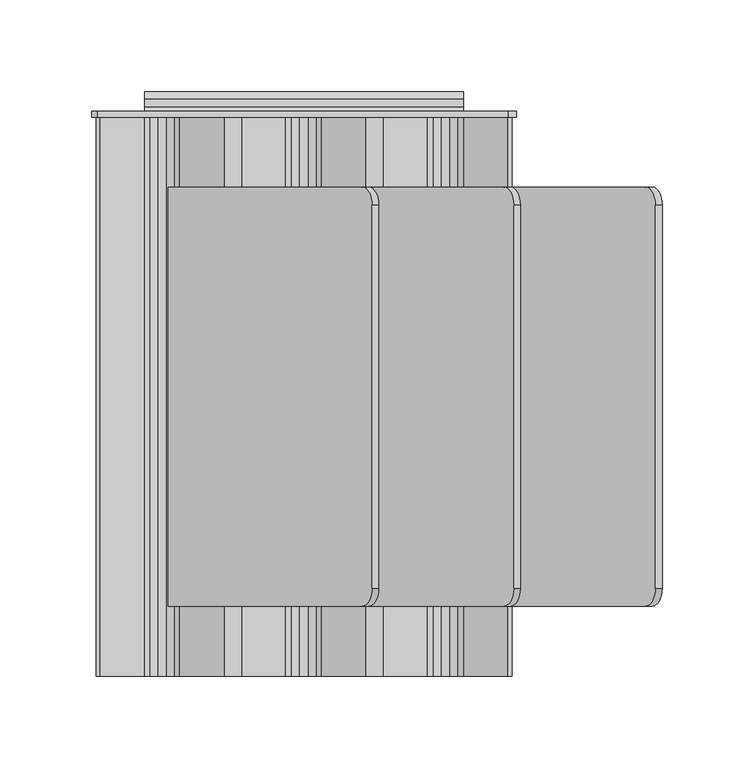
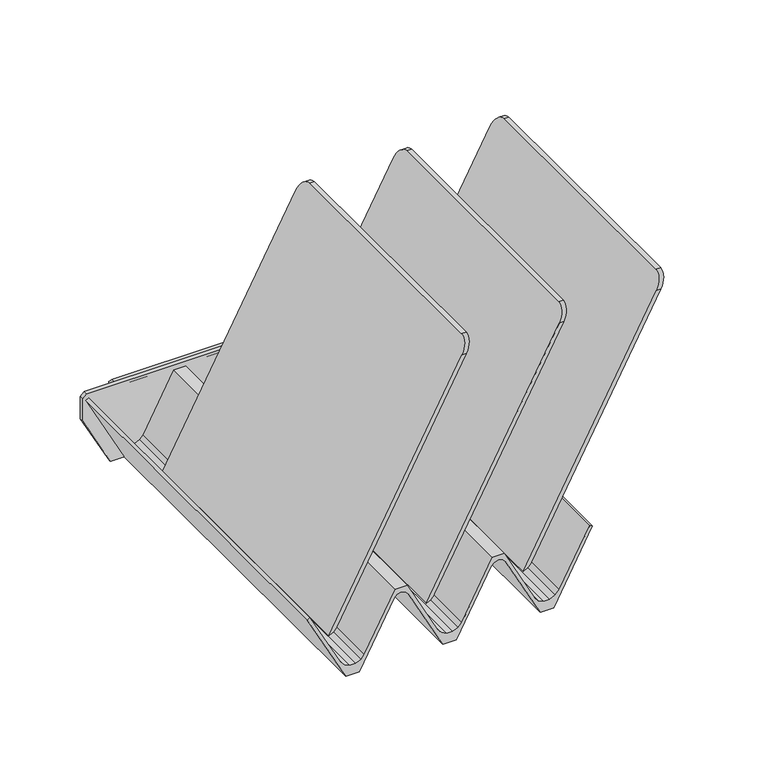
"""IFC4 building model written with IfcOpenShell, lengths in millimetres: furniture geometry."""

from ifc_helpers import new_model, si_unit, point, frame, frame_2d, origin, place, context, project, spatial, polyline, circle_curve, ellipse_curve, trimmed, segment, composite_curve, outline, extrude, source, transform, mapped, element, save
from ifc_brep_helpers import plane_surface, cylinder_surface, advanced_brep


def furniture_3d3026bf(model_context):
    return source(origin(), model_context, "Body", "SolidModel", [
        advanced_brep(
        [(-78.5076305, -115.8875182, 803.275), (-74.9117341, -115.8875182, 803.275), (35.3237269, -115.8875182, 1010.5977434), (31.7278836, -115.8875182, 1010.5977434), (-74.9117341, 112.7124864, 803.275), (-78.5076305, 112.7124864, 803.275), (31.7278836, 112.7124864, 1010.5977434), (35.3237269, 112.7124864, 1010.5977434), (40.728424, 102.8883555, 1020.7625), (40.728424, -105.9830355, 1020.7625), (37.1325833, 102.8883555, 1020.7625), (37.1325833, -105.9830355, 1020.7625)],
        [
            (0, 1),
            (1, 2),
            (2, 3),
            (3, 0),
            (4, 5),
            (5, 6),
            (6, 7),
            (7, 4),
            (0, 5),
            (4, 1),
            (7, 8, ellipse_curve(frame((35.3237269, 102.5418246, 1010.5977434), z_axis=(0.8829475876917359, 0.0, -0.46947157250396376), x_axis=(-0.46947157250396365, 0.0, -0.882947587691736)), 11.518987, 10.1706618)),
            (8, 9),
            (9, 2, ellipse_curve(frame((35.3237269, -105.7193418, 1010.5977434), z_axis=(0.8829475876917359, 0.0, -0.46947157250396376), x_axis=(-0.46947157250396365, 0.0, -0.882947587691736)), 11.5161721, 10.1681764)),
            (8, 10),
            (10, 11),
            (11, 9),
            (3, 11, ellipse_curve(frame((31.7278836, -105.7193418, 1010.5977434), z_axis=(-0.8829474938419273, 0.0, 0.46947174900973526), x_axis=(-0.4694717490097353, 0.0, -0.8829474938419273)), 11.5161734, 10.1681764)),
            (10, 6, ellipse_curve(frame((31.7278836, 102.5418246, 1010.5977434), z_axis=(-0.8829474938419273, 0.0, 0.46947174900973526), x_axis=(-0.4694717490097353, 0.0, -0.8829474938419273)), 11.5189882, 10.1706618)),
        ],
        [
            plane_surface(frame((-78.5076305, -115.8875182, 803.275), z_axis=(0.0, -1.0, 0.0), x_axis=(1.0, 0.0, 0.0))),
            plane_surface(frame((-78.5076305, 112.7124864, 803.275), z_axis=(0.0, 1.0, 0.0), x_axis=(-1.0, 0.0, 0.0))),
            plane_surface(frame((-78.5076305, -115.8875182, 803.275), z_axis=(0.0, 0.0, -1.0), x_axis=(0.0, 1.0, 0.0))),
            plane_surface(frame((-74.9117341, -115.8875182, 803.275), z_axis=(0.8829475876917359, 0.0, -0.46947157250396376), x_axis=(0.0, 1.0, 0.0))),
            plane_surface(frame((40.728424, -115.8875182, 1020.7625), z_axis=(0.0, 0.0, 1.0), x_axis=(0.0, 1.0, 0.0))),
            plane_surface(frame((37.1325833, -115.8875182, 1020.7625), z_axis=(-0.8829474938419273, 0.0, 0.46947174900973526), x_axis=(0.0, 1.0, 0.0))),
            cylinder_surface(frame((0.0, 102.5418246, 1010.5977434), z_axis=(-1.0, 0.0, 0.0), x_axis=(0.0, 1.0, 0.0)), 10.1706618),
            cylinder_surface(frame((0.0, -105.7193418, 1010.5977434), z_axis=(-1.0, 0.0, 0.0), x_axis=(0.0, 1.0, 0.0)), 10.1681764),
        ],
        [
            (0, [[1, 2, 3, 4]]),
            (1, [[5, 6, 7, 8]]),
            (2, [[-1, 9, -5, 10]]),
            (3, [[-10, -8, 11, 12, 13, -2]]),
            (4, [[-12, 14, 15, 16]]),
            (5, [[-9, -4, 17, -15, 18, -6]]),
            (6, [[-7, -18, -14, -11]]),
            (7, [[-3, -13, -16, -17]]),
        ],
    ),
        advanced_brep(
        [(-0.9107932, -115.8875182, 803.275), (2.3550823, -115.8875182, 803.275), (112.5905464, -115.8875182, 1010.5977434), (109.0097063, -115.8875182, 1010.5977434), (2.3550823, 112.7124864, 803.275), (-0.9107932, 112.7124864, 803.275), (109.0097063, 112.7124864, 1010.5977434), (112.5905464, 112.7124864, 1010.5977434), (117.9952436, 102.8883555, 1020.7625), (117.9952436, -105.9830355, 1020.7625), (114.3989613, 102.8883555, 1020.7625), (114.3989613, -105.9830355, 1020.7625)],
        [
            (0, 1),
            (1, 2),
            (2, 3),
            (3, 0),
            (4, 5),
            (5, 6),
            (6, 7),
            (7, 4),
            (0, 5),
            (4, 1),
            (7, 8, ellipse_curve(frame((112.5905464, 102.5418246, 1010.5977434), z_axis=(0.882947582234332, 0.0, -0.46947158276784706), x_axis=(-0.46947158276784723, 0.0, -0.882947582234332)), 11.518987, 10.1706618)),
            (8, 9),
            (9, 2, ellipse_curve(frame((112.5905464, -105.7193418, 1010.5977434), z_axis=(0.882947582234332, 0.0, -0.46947158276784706), x_axis=(-0.46947158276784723, 0.0, -0.882947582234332)), 11.5161722, 10.1681764)),
            (8, 10),
            (10, 11),
            (11, 9),
            (3, 11, ellipse_curve(frame((109.0097063, -105.7193418, 1010.5977434), z_axis=(-0.8835033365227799, 0.0, 0.4684248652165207), x_axis=(-0.46842486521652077, 0.0, -0.8835033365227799)), 11.5089281, 10.1681764)),
            (10, 6, ellipse_curve(frame((109.0097063, 102.5418246, 1010.5977434), z_axis=(-0.8835033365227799, 0.0, 0.4684248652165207), x_axis=(-0.46842486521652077, 0.0, -0.8835033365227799)), 11.5117412, 10.1706618)),
        ],
        [
            plane_surface(frame((-78.5076305, -115.8875182, 803.275), z_axis=(0.0, -1.0, 0.0), x_axis=(1.0, 0.0, 0.0))),
            plane_surface(frame((-78.5076305, 112.7124864, 803.275), z_axis=(0.0, 1.0, 0.0), x_axis=(-1.0, 0.0, 0.0))),
            plane_surface(frame((-0.9107932, -115.8875182, 803.275), z_axis=(0.0, 0.0, -1.0), x_axis=(0.0, 1.0, 0.0))),
            plane_surface(frame((2.3550823, -115.8875182, 803.275), z_axis=(0.882947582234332, 0.0, -0.46947158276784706), x_axis=(0.0, 1.0, 0.0))),
            plane_surface(frame((117.9952436, -115.8875182, 1020.7625), z_axis=(0.0, 0.0, 1.0), x_axis=(0.0, 1.0, 0.0))),
            plane_surface(frame((114.3989613, -115.8875182, 1020.7625), z_axis=(-0.8835033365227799, 0.0, 0.4684248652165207), x_axis=(0.0, 1.0, 0.0))),
            cylinder_surface(frame((0.0, 102.5418246, 1010.5977434), z_axis=(-1.0, 0.0, 0.0), x_axis=(0.0, 1.0, 0.0)), 10.1706618),
            cylinder_surface(frame((0.0, -105.7193418, 1010.5977434), z_axis=(-1.0, 0.0, 0.0), x_axis=(0.0, 1.0, 0.0)), 10.1681764),
        ],
        [
            (0, [[1, 2, 3, 4]]),
            (1, [[5, 6, 7, 8]]),
            (2, [[-1, 9, -5, 10]]),
            (3, [[-10, -8, 11, 12, 13, -2]]),
            (4, [[-12, 14, 15, 16]]),
            (5, [[-9, -4, 17, -15, 18, -6]]),
            (6, [[-7, -18, -14, -11]]),
            (7, [[-3, -13, -16, -17]]),
        ],
    ),
        advanced_brep(
        [(76.0259689, -115.8875182, 803.275), (79.7811739, -115.8875182, 803.275), (190.0166176, -115.8875182, 1010.5977434), (186.2614289, -115.8875182, 1010.5977434), (79.7811739, 112.7124864, 803.275), (76.0259689, 112.7124864, 803.275), (186.2614289, 112.7124864, 1010.5977434), (190.0166176, 112.7124864, 1010.5977434), (195.4213139, 102.8883555, 1020.7625), (195.4213139, -105.9830355, 1020.7625), (191.666126, 102.8883555, 1020.7625), (191.666126, -105.9830355, 1020.7625)],
        [
            (0, 1),
            (1, 2),
            (2, 3),
            (3, 0),
            (4, 5),
            (5, 6),
            (6, 7),
            (7, 4),
            (0, 5),
            (4, 1),
            (7, 8, ellipse_curve(frame((190.0166176, 102.5418246, 1010.5977434), z_axis=(0.8829476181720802, 0.0, -0.46947151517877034), x_axis=(-0.46947151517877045, 0.0, -0.88294761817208)), 11.5189866, 10.1706618)),
            (8, 9),
            (9, 2, ellipse_curve(frame((190.0166176, -105.7193418, 1010.5977434), z_axis=(0.8829476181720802, 0.0, -0.46947151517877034), x_axis=(-0.46947151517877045, 0.0, -0.88294761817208)), 11.5161717, 10.1681764)),
            (8, 10),
            (10, 11),
            (11, 9),
            (3, 11, ellipse_curve(frame((186.2614289, -105.7193418, 1010.5977434), z_axis=(-0.8829475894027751, 0.0, 0.4694715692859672), x_axis=(-0.469471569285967, 0.0, -0.8829475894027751)), 11.5161721, 10.1681764)),
            (10, 6, ellipse_curve(frame((186.2614289, 102.5418246, 1010.5977434), z_axis=(-0.8829475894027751, 0.0, 0.4694715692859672), x_axis=(-0.469471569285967, 0.0, -0.8829475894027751)), 11.5189869, 10.1706618)),
        ],
        [
            plane_surface(frame((-78.5076305, -115.8875182, 803.275), z_axis=(0.0, -1.0, 0.0), x_axis=(1.0, 0.0, 0.0))),
            plane_surface(frame((-78.5076305, 112.7124864, 803.275), z_axis=(0.0, 1.0, 0.0), x_axis=(-1.0, 0.0, 0.0))),
            plane_surface(frame((76.0259689, -115.8875182, 803.275), z_axis=(0.0, 0.0, -1.0), x_axis=(0.0, 1.0, 0.0))),
            plane_surface(frame((79.7811739, -115.8875182, 803.275), z_axis=(0.8829476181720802, 0.0, -0.46947151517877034), x_axis=(0.0, 1.0, 0.0))),
            plane_surface(frame((195.4213139, -115.8875182, 1020.7625), z_axis=(0.0, 0.0, 1.0), x_axis=(0.0, 1.0, 0.0))),
            plane_surface(frame((191.666126, -115.8875182, 1020.7625), z_axis=(-0.8829475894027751, 0.0, 0.4694715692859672), x_axis=(0.0, 1.0, 0.0))),
            cylinder_surface(frame((0.0, 102.5418246, 1010.5977434), z_axis=(-1.0, 0.0, 0.0), x_axis=(0.0, 1.0, 0.0)), 10.1706618),
            cylinder_surface(frame((0.0, -105.7193418, 1010.5977434), z_axis=(-1.0, 0.0, 0.0), x_axis=(0.0, 1.0, 0.0)), 10.1681764),
        ],
        [
            (0, [[1, 2, 3, 4]]),
            (1, [[5, 6, 7, 8]]),
            (2, [[-1, 9, -5, 10]]),
            (3, [[-10, -8, 11, 12, 13, -2]]),
            (4, [[-12, 14, 15, 16]]),
            (5, [[-9, -4, 17, -15, 18, -6]]),
            (6, [[-7, -18, -14, -11]]),
            (7, [[-3, -13, -16, -17]]),
        ],
    ),
        extrude(outline(polyline([(861.4615504, -113.3404132), (803.275, -82.6180755), (803.275, -71.8286766), (855.7990623, -44.096121), (858.0656431, -41.9545616), (858.9773762, -38.676187), (858.0656431, -35.3978079), (855.5922571, -33.0608503), (803.275, -5.4374818), (803.275, 5.4381185), (855.7990614, 33.170679), (858.0656431, 35.3122394), (858.9773762, 38.5906094), (858.0656431, 41.8689885), (855.5364359, 44.2586883), (803.275, 71.9155202), (803.275, 82.7049229), (861.461546, 113.4272483), (862.5778432, 111.3130508), (817.1305096, 87.1482781), (813.4751541, 84.0519156), (811.4607104, 79.7054876), (811.4607104, 74.9149551), (813.4751541, 70.5685271), (817.2355361, 67.3831993), (862.6474984, 43.2968127), (862.6474984, 33.9240014), (816.6254275, 9.4536309), (813.4751541, 6.7851111), (811.4607104, 2.4386922), (811.4607104, -2.3518493), (813.9104746, -6.6982682), (817.4699621, -9.9738698), (862.6474984, -33.8274808), (862.6474984, -43.3428158), (816.6253747, -67.8132137), (813.4751541, -70.4816887), (811.4607104, -74.8281031), (811.4607104, -79.6186492), (813.4751541, -83.9650636), (817.1305262, -87.0614424), (862.647503, -111.0942793), (861.4615504, -113.3404132)])), frame((0.0, -153.9875, 0.0), z_axis=(0.0, 1.0, 0.0), x_axis=(0.0, 0.0, 1.0)), (0.0, 0.0, 1.0), 304.7999878),
        extrude(outline(polyline([(863.5999994, -115.844077), (844.9649607, -115.844077), (803.275, -93.8318941), (803.275, 93.918737), (844.9649607, 115.930929), (863.5999984, 115.930929), (866.7749985, 111.5932577), (866.7749985, -112.669078), (863.5999994, -115.844077)])), frame((0.0, 150.8124878, 0.0), z_axis=(0.0, 1.0, 0.0), x_axis=(0.0, 0.0, 1.0)), (0.0, 0.0, 1.0), 3.1750122),
        extrude(outline(composite_curve([segment(polyline([(164.6784774, 859.7862114), (164.6784774, 857.2084605)]), True, "CONTINUOUS"), segment(trimmed(circle_curve(frame_2d((162.7734784, 857.2084605)), 1.904999), [point((164.6784774, 857.2084605))], [point((160.8684793, 857.2084605))], False, "CARTESIAN"), True, "CONTINUOUS"), segment(polyline([(160.8684793, 857.2084605), (160.8684793, 859.7862114), (156.5435882, 859.7862114), (153.9875, 857.2301232), (153.9875, 866.7749985), (156.5435882, 863.5962113), (160.8684775, 863.5962113), (164.6784774, 859.7862114)]), True, "CONTINUOUS")], self_intersect=False)), frame((-87.0345642, 0.0, 0.0), z_axis=(1.0, 0.0, 0.0), x_axis=(0.0, 1.0, 0.0)), (0.0, 0.0, 1.0), 174.0691284),
    ])


if __name__ == "__main__":
    model = new_model("IFC4")
    model_context = context("Model", 3, world=origin())
    ifc_project = project(units=[si_unit("LENGTHUNIT", "METRE", prefix="MILLI")], contexts=[model_context])
    site = spatial("IfcSite", under=ifc_project)
    building = spatial("IfcBuilding", under=site)
    placement = place(None, origin())
    furniture_shape = furniture_3d3026bf(model_context)
    element("IfcFurniture", 1, ObjectType="HermanMiller_ThrivePortfolio_Y7218_DiagonalTray : 8 1/2\"H x 12\"D x 13\"W", at=placement, inside=building, context=model_context, shape_type="MappedRepresentation", body=[
        mapped(furniture_shape, transform((0.0, 0.0, 0.0), x_axis=(1.0, 0.0, 0.0), y_axis=(0.0, 1.0, 0.0), z_axis=(0.0, 0.0, 1.0))),
    ])
    save(model, "model.ifc")
